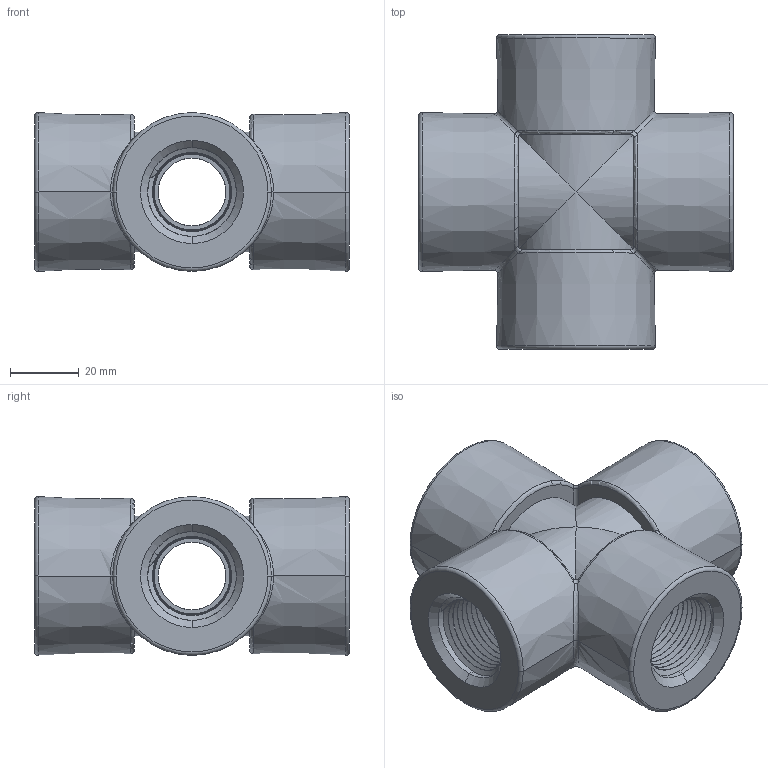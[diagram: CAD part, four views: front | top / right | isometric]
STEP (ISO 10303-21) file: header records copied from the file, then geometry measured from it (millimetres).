
FILE_DESCRIPTION(/* description */ ('Alibre Inc.'),/* implementation_level */ '2;1');
FILE_NAME(/* name */ 'export0',/* time_stamp */ '2019-10-05T11:34:08-04:00',/* author */ (''),/* organization */ (''),/* preprocessor_version */ 'ST-DEVELOPER v17',/* originating_system */ 'Alibre',/* authorisation */ '');
FILE_SCHEMA (('CONFIG_CONTROL_DESIGN'));
Length unit declared in the file: inch
Products named in the file (1): 200-62262-1000CZ
Bounding box: 91.6 x 91.6 x 46.21 mm (x, y, z)
Volume: 159743.4 mm3; surface area: 39479.5 mm2
Topology: 1 solids, 1 shells, 212 faces, 532 edges, 324 vertices
Faces by surface type: cone 100, bspline 56, cylinder 24, plane 16, torus 16
Entity records: 56689 total; most frequent: CARTESIAN_POINT 52806, ORIENTED_EDGE 1064, EDGE_CURVE 532, DIRECTION 383, VERTEX_POINT 324, B_SPLINE_CURVE_WITH_KNOTS 317, EDGE_LOOP 220, FACE_BOUND 220
